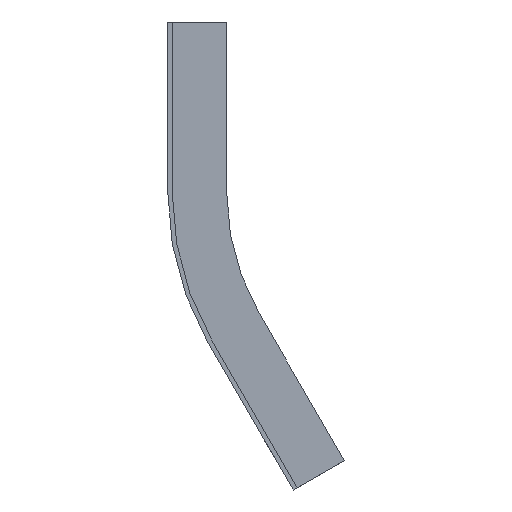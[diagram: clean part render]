
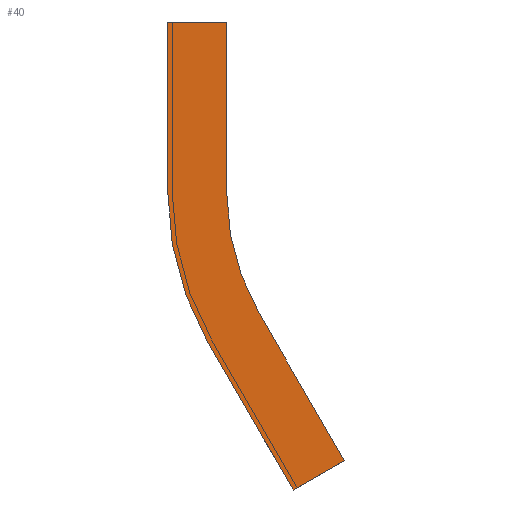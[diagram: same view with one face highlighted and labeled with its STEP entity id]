
A CAD part, left-side view. The second image highlights one B-rep face of the part: STEP entity #40.
In plain terms, the highlighted planar face has unit normal (-1, 0, 0).
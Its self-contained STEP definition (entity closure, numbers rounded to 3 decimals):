
#36 = VERTEX_POINT ( 'NONE', #284 ) ;
#40 = ADVANCED_FACE ( 'NONE', ( #816 ), #399, .T. ) ;
#56 = CARTESIAN_POINT ( 'NONE',  ( -303.5, 0., -57.9 ) ) ;
#59 = EDGE_LOOP ( 'NONE', ( #489, #783, #607, #536, #73, #430, #287, #132 ) ) ;
#65 = CARTESIAN_POINT ( 'NONE',  ( -303.5, -42.548, -158.793 ) ) ;
#67 = VECTOR ( 'NONE', #456, 1000. ) ;
#71 = EDGE_CURVE ( 'NONE', #328, #549, #204, .T. ) ;
#73 = ORIENTED_EDGE ( 'NONE', *, *, #249, .F. ) ;
#81 = EDGE_CURVE ( 'NONE', #107, #653, #660, .T. ) ;
#102 = CARTESIAN_POINT ( 'NONE',  ( -303.5, -101.5, -57.9 ) ) ;
#107 = VERTEX_POINT ( 'NONE', #112 ) ;
#112 = CARTESIAN_POINT ( 'NONE',  ( -303.5, -13.598, -108.65 ) ) ;
#117 = LINE ( 'NONE', #715, #122 ) ;
#121 = LINE ( 'NONE', #191, #635 ) ;
#122 = VECTOR ( 'NONE', #593, 1000. ) ;
#132 = ORIENTED_EDGE ( 'NONE', *, *, #576, .F. ) ;
#135 = CIRCLE ( 'NONE', #622, 81.5 ) ;
#180 = LINE ( 'NONE', #65, #512 ) ;
#187 = CARTESIAN_POINT ( 'NONE',  ( -303.5, -42.548, -158.793 ) ) ;
#191 = CARTESIAN_POINT ( 'NONE',  ( -303.5, -20., -57.9 ) ) ;
#204 = LINE ( 'NONE', #462, #319 ) ;
#219 = CARTESIAN_POINT ( 'NONE',  ( -303.5, -101.5, -57.9 ) ) ;
#233 = DIRECTION ( 'NONE',  ( 0., 0., 1. ) ) ;
#249 = EDGE_CURVE ( 'NONE', #36, #745, #180, .T. ) ;
#264 = EDGE_CURVE ( 'NONE', #745, #107, #524, .T. ) ;
#284 = CARTESIAN_POINT ( 'NONE',  ( -303.5, -59.869, -148.793 ) ) ;
#287 = ORIENTED_EDGE ( 'NONE', *, *, #316, .F. ) ;
#294 = DIRECTION ( 'NONE',  ( 0., -0.5, -0.866 ) ) ;
#315 = DIRECTION ( 'NONE',  ( 0., 0., -1. ) ) ;
#316 = EDGE_CURVE ( 'NONE', #537, #659, #135, .T. ) ;
#319 = VECTOR ( 'NONE', #429, 1000. ) ;
#323 = CARTESIAN_POINT ( 'NONE',  ( -303.5, -13.598, -108.65 ) ) ;
#328 = VERTEX_POINT ( 'NONE', #840 ) ;
#356 = LINE ( 'NONE', #623, #409 ) ;
#395 = DIRECTION ( 'NONE',  ( 0., 0., -1. ) ) ;
#399 = PLANE ( 'NONE',  #553 ) ;
#409 = VECTOR ( 'NONE', #294, 1000. ) ;
#429 = DIRECTION ( 'NONE',  ( 0., -1., 0. ) ) ;
#430 = ORIENTED_EDGE ( 'NONE', *, *, #558, .F. ) ;
#456 = DIRECTION ( 'NONE',  ( 0., 0.5, 0.866 ) ) ;
#462 = CARTESIAN_POINT ( 'NONE',  ( -303.5, -20., 0. ) ) ;
#489 = ORIENTED_EDGE ( 'NONE', *, *, #71, .F. ) ;
#512 = VECTOR ( 'NONE', #852, 1000. ) ;
#521 = CARTESIAN_POINT ( 'NONE',  ( -303.5, -101.5, -57.9 ) ) ;
#524 = LINE ( 'NONE', #323, #67 ) ;
#536 = ORIENTED_EDGE ( 'NONE', *, *, #264, .F. ) ;
#537 = VERTEX_POINT ( 'NONE', #826 ) ;
#549 = VERTEX_POINT ( 'NONE', #762 ) ;
#553 = AXIS2_PLACEMENT_3D ( 'NONE', #219, #808, #738 ) ;
#558 = EDGE_CURVE ( 'NONE', #659, #36, #356, .T. ) ;
#576 = EDGE_CURVE ( 'NONE', #549, #537, #121, .T. ) ;
#593 = DIRECTION ( 'NONE',  ( 0., 0., 1. ) ) ;
#607 = ORIENTED_EDGE ( 'NONE', *, *, #81, .F. ) ;
#622 = AXIS2_PLACEMENT_3D ( 'NONE', #521, #848, #395 ) ;
#623 = CARTESIAN_POINT ( 'NONE',  ( -303.5, -59.869, -148.793 ) ) ;
#624 = DIRECTION ( 'NONE',  ( 1., 0., 0. ) ) ;
#635 = VECTOR ( 'NONE', #315, 1000. ) ;
#638 = CARTESIAN_POINT ( 'NONE',  ( -303.5, -30.919, -98.65 ) ) ;
#653 = VERTEX_POINT ( 'NONE', #56 ) ;
#659 = VERTEX_POINT ( 'NONE', #638 ) ;
#660 = CIRCLE ( 'NONE', #698, 101.5 ) ;
#698 = AXIS2_PLACEMENT_3D ( 'NONE', #102, #624, #233 ) ;
#715 = CARTESIAN_POINT ( 'NONE',  ( -303.5, 0., 0. ) ) ;
#718 = EDGE_CURVE ( 'NONE', #653, #328, #117, .T. ) ;
#738 = DIRECTION ( 'NONE',  ( 0., 0., 1. ) ) ;
#745 = VERTEX_POINT ( 'NONE', #187 ) ;
#762 = CARTESIAN_POINT ( 'NONE',  ( -303.5, -20., 0. ) ) ;
#783 = ORIENTED_EDGE ( 'NONE', *, *, #718, .F. ) ;
#808 = DIRECTION ( 'NONE',  ( -1., 0., 0. ) ) ;
#816 = FACE_OUTER_BOUND ( 'NONE', #59, .T. ) ;
#826 = CARTESIAN_POINT ( 'NONE',  ( -303.5, -20., -57.9 ) ) ;
#840 = CARTESIAN_POINT ( 'NONE',  ( -303.5, 0., 0. ) ) ;
#848 = DIRECTION ( 'NONE',  ( -1., 0., 0. ) ) ;
#852 = DIRECTION ( 'NONE',  ( 0., 0.866, -0.5 ) ) ;
